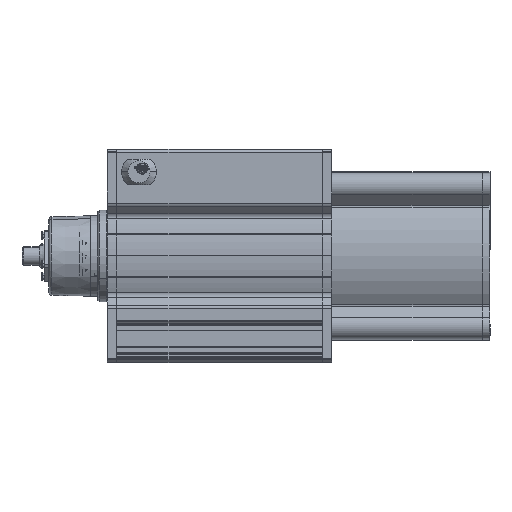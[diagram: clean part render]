
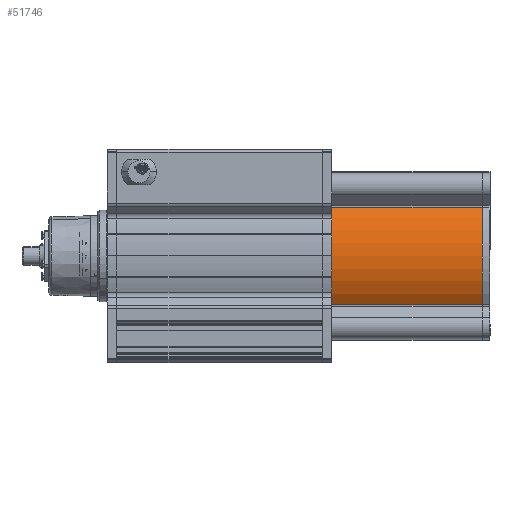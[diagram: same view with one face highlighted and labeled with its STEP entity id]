
A CAD part, top view. The second image highlights one B-rep face of the part: STEP entity #51746.
In plain terms, the highlighted cylindrical face has radius 53.25 mm (diameter 106.5 mm), a partial arc.
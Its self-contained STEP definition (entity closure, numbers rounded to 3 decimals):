
#51164 = VERTEX_POINT ( 'NONE', #65042 ) ;
#51175 = EDGE_CURVE ( 'NONE', #51287, #51164, #65034, .T. ) ;
#51200 = VERTEX_POINT ( 'NONE', #65054 ) ;
#51205 = VERTEX_POINT ( 'NONE', #65047 ) ;
#51238 = EDGE_CURVE ( 'NONE', #51205, #51200, #65108, .T. ) ;
#51287 = VERTEX_POINT ( 'NONE', #65194 ) ;
#51746 = ADVANCED_FACE ( 'NONE', ( #66240 ), #66221, .T. ) ;
#51749 = EDGE_LOOP ( 'NONE', ( #51752, #51754, #51761, #51767 ) ) ;
#51752 = ORIENTED_EDGE ( 'NONE', *, *, #51175, .T. ) ;
#51754 = ORIENTED_EDGE ( 'NONE', *, *, #51758, .T. ) ;
#51758 = EDGE_CURVE ( 'NONE', #51164, #51205, #66271, .T. ) ;
#51761 = ORIENTED_EDGE ( 'NONE', *, *, #51238, .T. ) ;
#51767 = ORIENTED_EDGE ( 'NONE', *, *, #51770, .F. ) ;
#51770 = EDGE_CURVE ( 'NONE', #51287, #51200, #66263, .T. ) ;
#65031 = DIRECTION ( 'NONE',  ( -1., 0., 0. ) ) ;
#65032 = VECTOR ( 'NONE', #65031, 1000. ) ;
#65033 = CARTESIAN_POINT ( 'NONE',  ( -98.586, 91.749, 17.983 ) ) ;
#65034 = LINE ( 'NONE', #65033, #65032 ) ;
#65042 = CARTESIAN_POINT ( 'NONE',  ( -22.706, 91.749, 17.983 ) ) ;
#65047 = CARTESIAN_POINT ( 'NONE',  ( -22.706, 29.979, 17.983 ) ) ;
#65054 = CARTESIAN_POINT ( 'NONE',  ( 72.294, 29.979, 17.983 ) ) ;
#65100 = DIRECTION ( 'NONE',  ( 1., 0., 0. ) ) ;
#65101 = VECTOR ( 'NONE', #65100, 1000. ) ;
#65102 = CARTESIAN_POINT ( 'NONE',  ( -98.586, 29.979, 17.983 ) ) ;
#65108 = LINE ( 'NONE', #65102, #65101 ) ;
#65194 = CARTESIAN_POINT ( 'NONE',  ( 72.294, 91.749, 17.983 ) ) ;
#66217 = DIRECTION ( 'NONE',  ( 0., -1., 0. ) ) ;
#66218 = DIRECTION ( 'NONE',  ( -1., 0., 0. ) ) ;
#66219 = CARTESIAN_POINT ( 'NONE',  ( -98.586, 60.864, -25.395 ) ) ;
#66220 = AXIS2_PLACEMENT_3D ( 'NONE', #66219, #66218, #66217 ) ;
#66221 = CYLINDRICAL_SURFACE ( 'NONE', #66220, 53.25 ) ;
#66240 = FACE_OUTER_BOUND ( 'NONE', #51749, .T. ) ;
#66259 = DIRECTION ( 'NONE',  ( 0., -1., 0. ) ) ;
#66260 = DIRECTION ( 'NONE',  ( 1., 0., 0. ) ) ;
#66261 = CARTESIAN_POINT ( 'NONE',  ( 72.294, 60.864, -25.395 ) ) ;
#66262 = AXIS2_PLACEMENT_3D ( 'NONE', #66261, #66260, #66259 ) ;
#66263 = CIRCLE ( 'NONE', #66262, 53.25 ) ;
#66267 = DIRECTION ( 'NONE',  ( 0., 1., 0. ) ) ;
#66268 = DIRECTION ( 'NONE',  ( 1., 0., 0. ) ) ;
#66269 = CARTESIAN_POINT ( 'NONE',  ( -22.706, 60.864, -25.395 ) ) ;
#66270 = AXIS2_PLACEMENT_3D ( 'NONE', #66269, #66268, #66267 ) ;
#66271 = CIRCLE ( 'NONE', #66270, 53.25 ) ;
